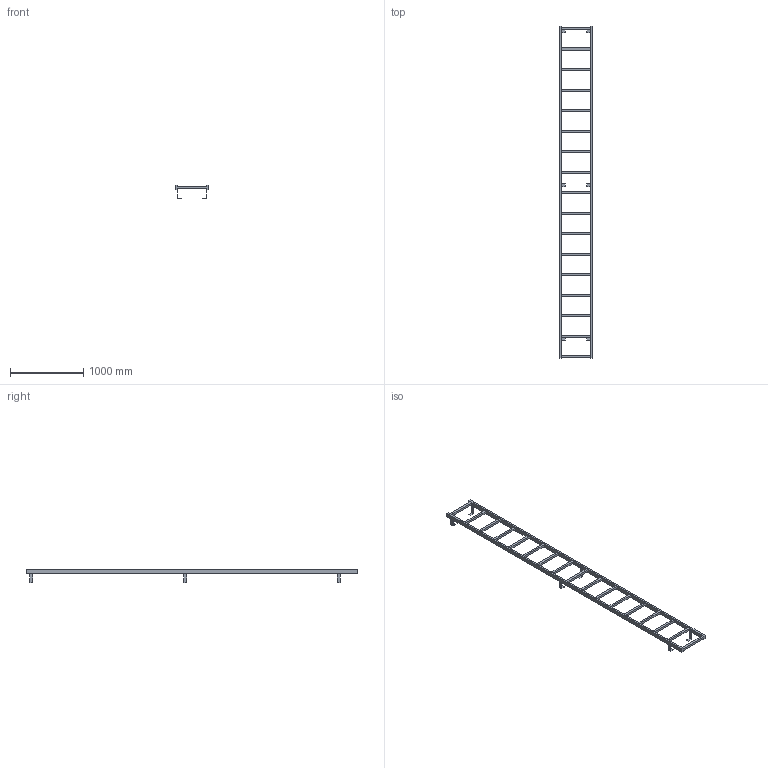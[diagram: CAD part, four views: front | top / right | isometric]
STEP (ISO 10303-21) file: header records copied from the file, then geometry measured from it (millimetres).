
FILE_DESCRIPTION((''),'2;1');
FILE_NAME('017_000109','2017-06-19T',('set'),('HUBER SE'),'PRO/ENGINEER BY PARAMETRIC TECHNOLOGY CORPORATION, 2015280','PRO/ENGINEER BY PARAMETRIC TECHNOLOGY CORPORATION, 2015280','');
FILE_SCHEMA(('CONFIG_CONTROL_DESIGN'));
Length unit declared in the file: millimetre
Products named in the file (1): 017_000109
Bounding box: 450 x 4530 x 178.5 mm (x, y, z)
Volume: 19127940 mm3; surface area: 2366292 mm2
Topology: 1 solids, 1 shells, 126 faces, 469 edges, 341 vertices
Faces by surface type: plane 126
Entity records: 4858 total; most frequent: CARTESIAN_POINT 994, ORIENTED_EDGE 736, DIRECTION 710, VECTOR 422, LINE 422, EDGE_CURVE 368, VERTEX_POINT 240, EDGE_LOOP 154
